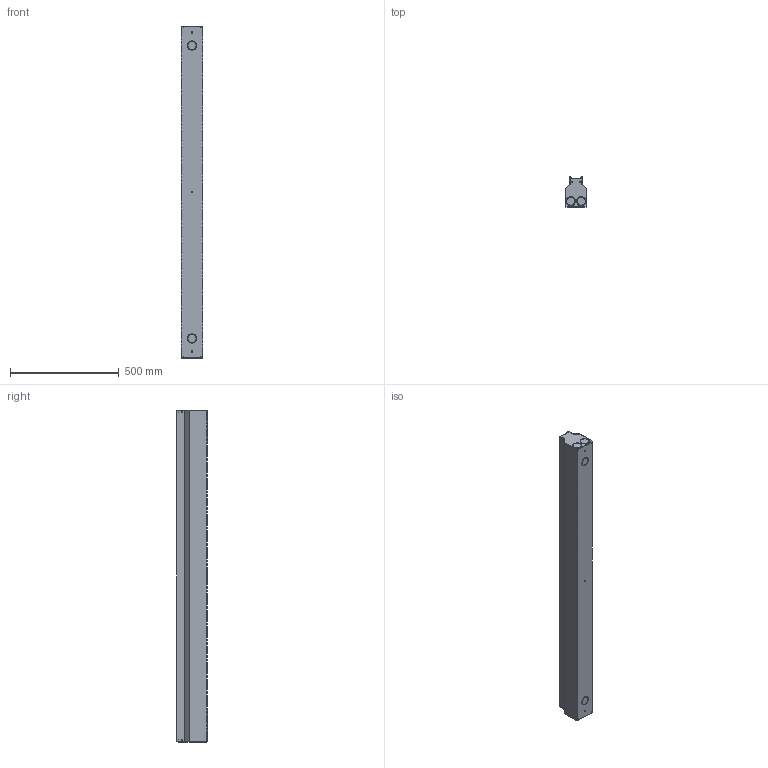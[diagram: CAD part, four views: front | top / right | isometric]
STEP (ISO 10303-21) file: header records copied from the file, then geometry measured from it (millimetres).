
FILE_DESCRIPTION(/* description */ ('Unknown'),/* implementation_level */ '2;1');
FILE_NAME(/* name */ 'E99760',/* time_stamp */ '2023-02-07T09:08:07+01:00',/* author */ ('Unknown'),/* organization */ ('Unknown'),/* preprocessor_version */ 'ST-DEVELOPER v18.1',/* originating_system */ 'Solid Edge',/* authorisation */ 'Unknown');
FILE_SCHEMA (('AP242_MANAGED_MODEL_BASED_3D_ENGINEERING_MIM_LF { 1 0 10303 442 1 1 4 }','AUTOMOTIVE_DESIGN {1 0 10303 214 3 1 1}'));
Length unit declared in the file: millimetre
Products named in the file (1): E99760
Bounding box: 100.2 x 138.27 x 1525.9 mm (x, y, z)
Volume: 615365 mm3; surface area: 1240595.1 mm2
Topology: 1 solids, 1 shells, 1108 faces, 4062 edges, 2709 vertices
Faces by surface type: plane 685, cylinder 396, torus 18, sphere 6, cone 3
Full cylindrical faces by diameter (mm): 3 x2, 3.242 x1, 3.5 x4, 3.8 x4, 4.5 x8, 6 x7, 7.8 x4
Entity records: 50850 total; most frequent: ORIENTED_EDGE 7934, CARTESIAN_POINT 7753, DIRECTION 7000, EDGE_CURVE 3967, LINE 3152, VECTOR 3152, VERTEX_POINT 2677, AXIS2_PLACEMENT_3D 1924
